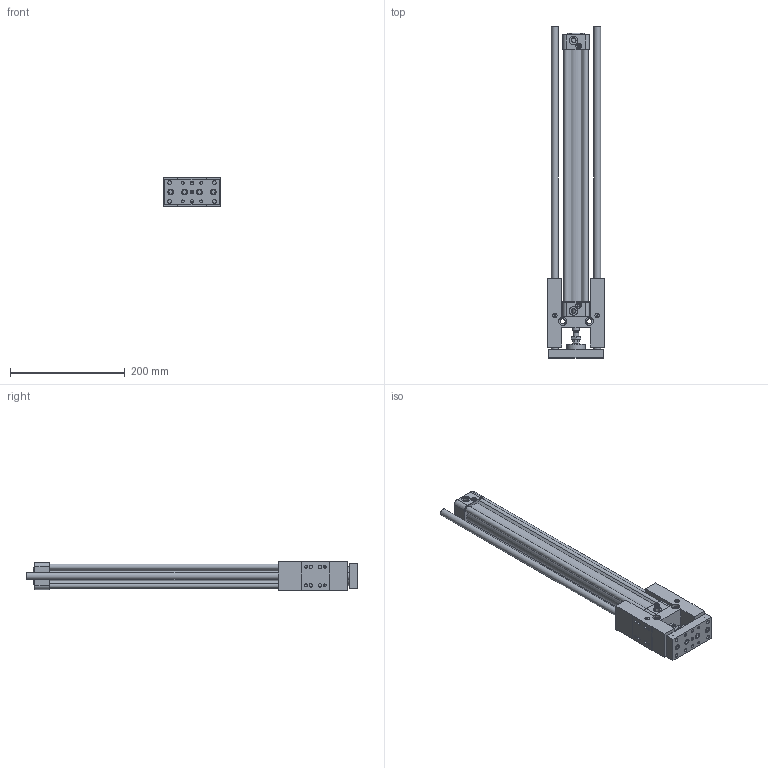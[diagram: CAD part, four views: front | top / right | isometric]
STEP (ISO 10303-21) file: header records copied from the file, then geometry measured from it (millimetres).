
FILE_DESCRIPTION((''),'2;1');
FILE_NAME('I:\3D電子目錄\氣缸\GHB(U)\GHB(U)\GHB(U)32\GHB(U)32x400.stp','2007-10-19T10:43:18',('Administrator'),(''),'Autodesk Inventor 11','Autodesk Inventor 11','');
FILE_SCHEMA(('AUTOMOTIVE_DESIGN { 1 0 10303 214 1 1 1 1 }'));
Length unit declared in the file: millimetre
Products named in the file (1): GHB(U)32
Bounding box: 99 x 579 x 50.2 mm (x, y, z)
Volume: 932483.5 mm3; surface area: 299033.5 mm2
Topology: 17 solids, 17 shells, 738 faces, 1598 edges, 986 vertices
Faces by surface type: plane 291, bspline 199, cylinder 159, cone 80, torus 9
Full cylindrical faces by diameter (mm): 2.6 x2, 4.9 x2, 4.917 x4, 5 x5, 5.5 x10, 6 x11, 6.5 x8, 7.5 x1, 7.8 x4, 7.9 x3, 8 x5, 9 x8, 10 x7, 10.2 x8, 12 x4, 13 x1, 14 x1, 15 x2, 17 x2, 30 x1, 32 x1, 33 x1
Entity records: 20771 total; most frequent: CARTESIAN_POINT 6160, DIRECTION 2934, ORIENTED_EDGE 2754, EDGE_CURVE 1377, AXIS2_PLACEMENT_3D 1157, EDGE_LOOP 1056, VERTEX_POINT 953, FACE_OUTER_BOUND 738
